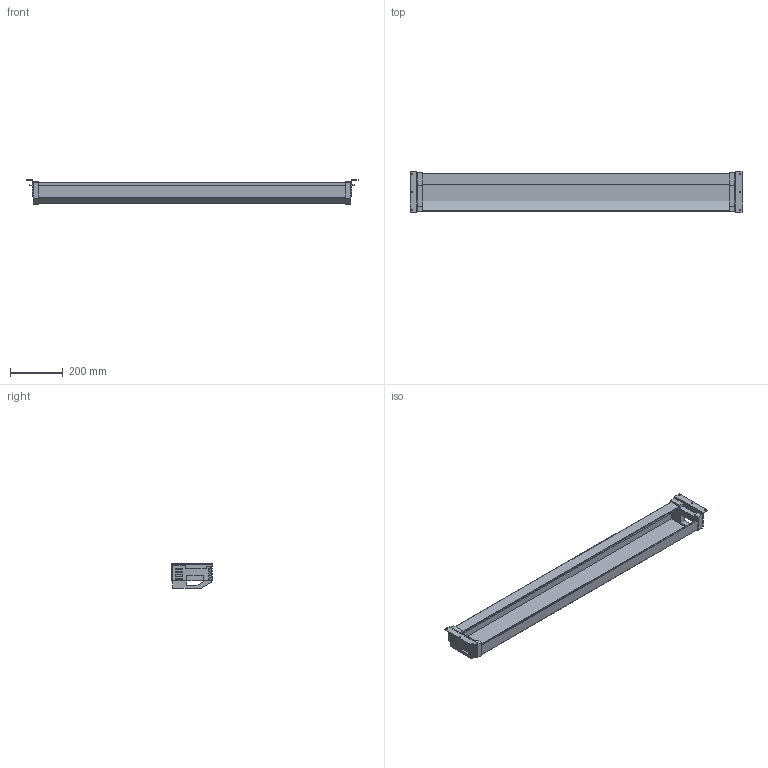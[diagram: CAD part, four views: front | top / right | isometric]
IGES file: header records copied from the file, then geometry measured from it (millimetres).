
Start section: Data from Parasolid IGES Translator 20.0.26, Copyright(c) 2006 Siemens P LM Software. All Rights Reserved.
Global section: file name: 9309800.igs; native system: By Siemens PLM Incorporated; preprocessor: XPlus GENERIC/IGES 20.0.26; author: Noname; organization: Noname; date: 20220302.125505; units: millimetre
Bounding box: 1260 x 152 x 92.15 mm (x, y, z)
Surface area: 882943 mm2 (no closed solid volume)
Topology: 0 solids, 0 shells, 144 faces, 792 edges, 772 vertices
Faces by surface type: extrusion 118, revolution 26
